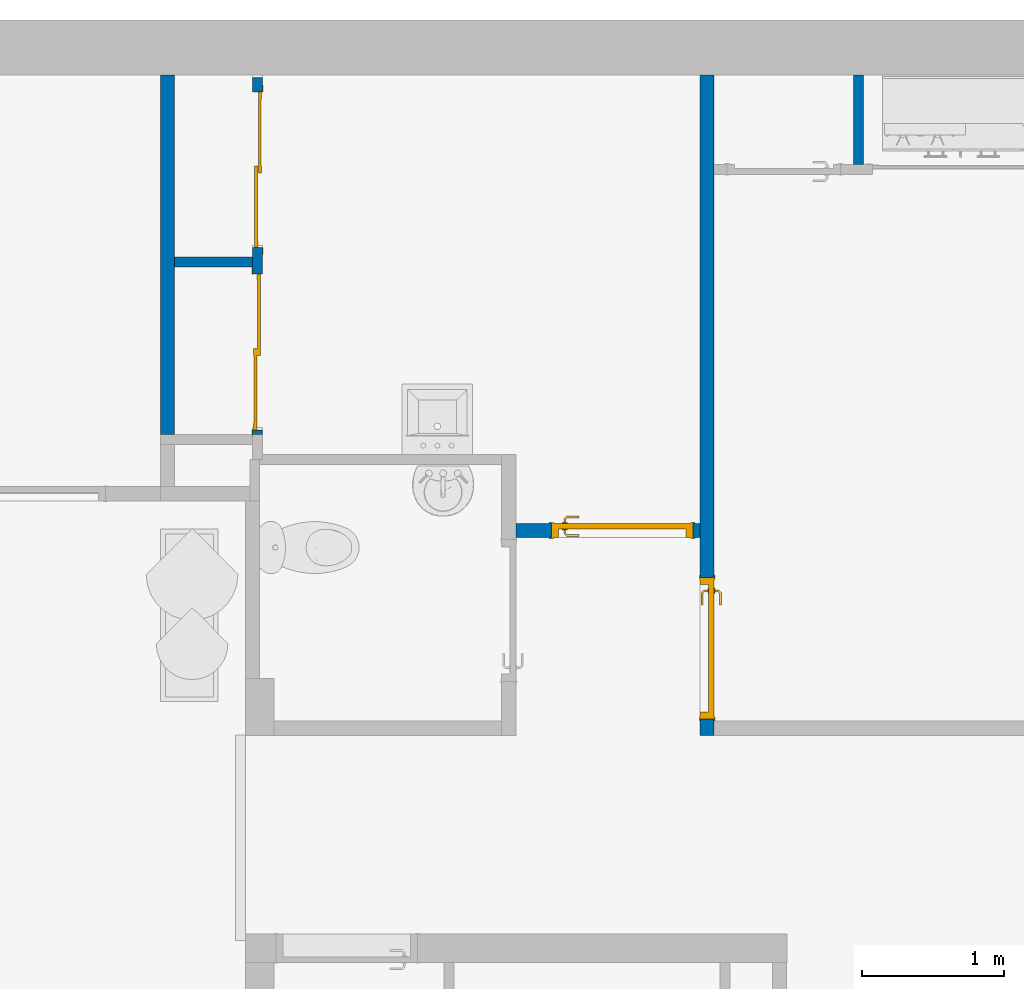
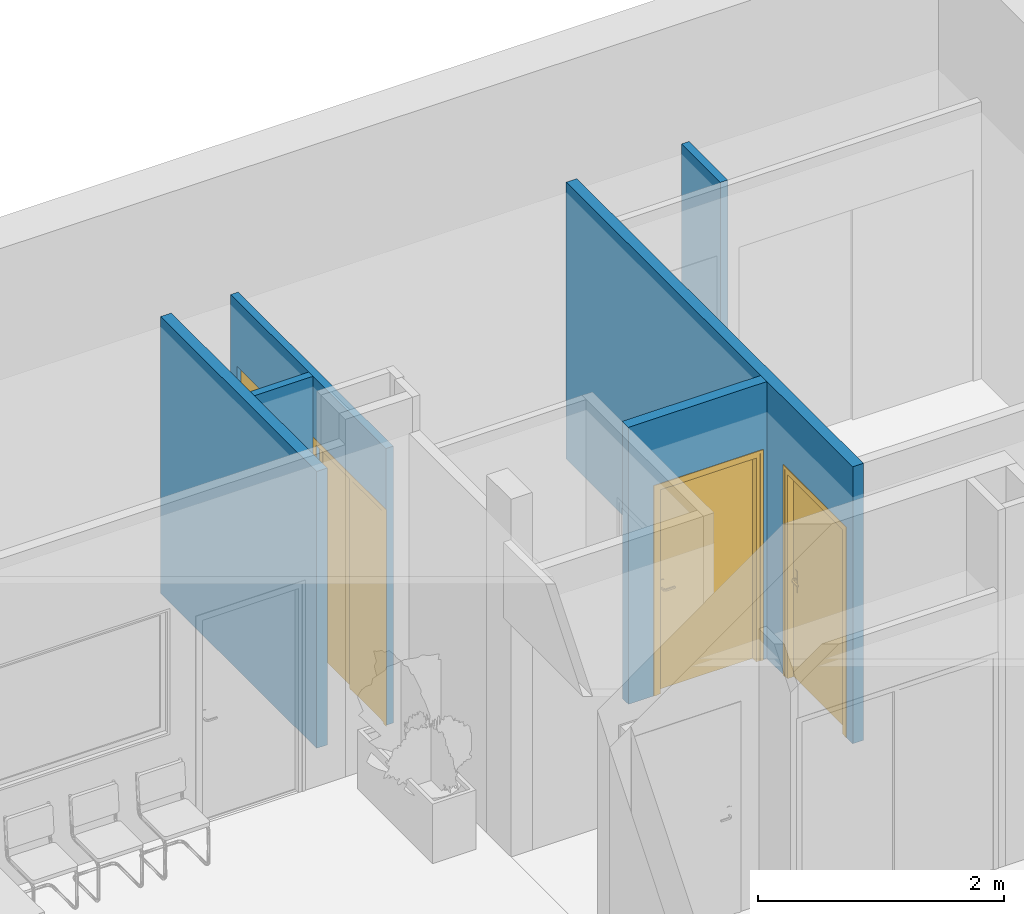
# One storey, part 17 of 32: 6 walls, 4 doors, 4 openings.
"""IFC2X3 building model written with IfcOpenShell, lengths in metres."""

from ifc_helpers import new_model, entity, si_unit, converted_unit, derived_unit, direction, frame, frame_2d, origin, origin_2d_with_axis, place, context, subcontext, project, spatial, polyline, circle_curve, parameter, trimmed, segment, composite_curve, rectangle, outline, extrude, faceted_brep, source, transform, mapped, material, material_list, layer, layer_set, layer_usage, type_object, type_shapes, element, fill, save


model = new_model("IFC2X3")

# Units and contexts
model_context = context("Model", 3, precision=1e-05, world=origin(), true_north=direction((6.12303176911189e-17, 1.0)))
plan_context = context("Plan", 3, precision=1e-05, world=origin(), true_north=direction((6.12303176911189e-17, 1.0)))
body_context = subcontext(model_context, "Body", "Model", "MODEL_VIEW")
ifc_project = project(units=[si_unit("LENGTHUNIT", "METRE"), si_unit("AREAUNIT", "SQUARE_METRE"), si_unit("VOLUMEUNIT", "CUBIC_METRE"), converted_unit("PLANEANGLEUNIT", "DEGREE", entity("IfcRatioMeasure", 0.0174532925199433), si_unit("PLANEANGLEUNIT", "RADIAN"), dimensions=[0, 0, 0, 0, 0, 0, 0]), si_unit("MASSUNIT", "GRAM", prefix="KILO"), derived_unit("MASSDENSITYUNIT", [(si_unit("MASSUNIT", "GRAM", prefix="KILO"), 1), (si_unit("LENGTHUNIT", "METRE"), -3)]), derived_unit("MOMENTOFINERTIAUNIT", [(si_unit("LENGTHUNIT", "METRE"), 4)]), si_unit("TIMEUNIT", "SECOND"), si_unit("FREQUENCYUNIT", "HERTZ"), si_unit("THERMODYNAMICTEMPERATUREUNIT", "DEGREE_CELSIUS"), derived_unit("THERMALTRANSMITTANCEUNIT", [(si_unit("MASSUNIT", "GRAM", prefix="KILO"), 1), (si_unit("THERMODYNAMICTEMPERATUREUNIT", "KELVIN"), -1), (si_unit("TIMEUNIT", "SECOND"), -3)]), derived_unit("VOLUMETRICFLOWRATEUNIT", [(si_unit("LENGTHUNIT", "METRE"), 3), (si_unit("TIMEUNIT", "SECOND"), -1)]), si_unit("ELECTRICCURRENTUNIT", "AMPERE"), si_unit("ELECTRICVOLTAGEUNIT", "VOLT"), si_unit("POWERUNIT", "WATT"), si_unit("FORCEUNIT", "NEWTON", prefix="KILO"), si_unit("ILLUMINANCEUNIT", "LUX"), si_unit("LUMINOUSFLUXUNIT", "LUMEN"), si_unit("LUMINOUSINTENSITYUNIT", "CANDELA"), derived_unit("USERDEFINED", [(si_unit("MASSUNIT", "GRAM", prefix="KILO"), -1), (si_unit("LENGTHUNIT", "METRE"), -2), (si_unit("TIMEUNIT", "SECOND"), 3), (si_unit("LUMINOUSFLUXUNIT", "LUMEN"), 1)]), derived_unit("LINEARVELOCITYUNIT", [(si_unit("LENGTHUNIT", "METRE"), 1), (si_unit("TIMEUNIT", "SECOND"), -1)]), si_unit("PRESSUREUNIT", "PASCAL"), derived_unit("USERDEFINED", [(si_unit("LENGTHUNIT", "METRE"), -2), (si_unit("MASSUNIT", "GRAM", prefix="KILO"), 1), (si_unit("TIMEUNIT", "SECOND"), -2)]), derived_unit("LINEARFORCEUNIT", [(si_unit("MASSUNIT", "GRAM", prefix="KILO"), 1), (si_unit("LENGTHUNIT", "METRE"), 1), (si_unit("TIMEUNIT", "SECOND"), -2), (si_unit("LENGTHUNIT", "METRE"), -1)]), derived_unit("PLANARFORCEUNIT", [(si_unit("MASSUNIT", "GRAM", prefix="KILO"), 1), (si_unit("LENGTHUNIT", "METRE"), 1), (si_unit("TIMEUNIT", "SECOND"), -2), (si_unit("LENGTHUNIT", "METRE"), -2)])], contexts=[model_context, plan_context])

# Site, building, storey
site_placement = place(None, origin())
site = spatial("IfcSite", under=ifc_project, at=site_placement, Name="Default", CompositionType="ELEMENT")
building_placement = place(site_placement, origin())
building = spatial("IfcBuilding", under=site, at=building_placement, CompositionType="ELEMENT")
storey_placement = place(building_placement, origin())
storey = spatial("IfcBuildingStorey", under=building, at=storey_placement, Name="0 Mairie RDC 0.00", CompositionType="ELEMENT", Elevation=-1.94916083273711e-14)

# Wall
ifc_material_1 = material(Name="Plâtre")
ifc_layer_1 = layer(ifc_material_1, 0.0125)
ifc_layer_2 = layer(ifc_material_1, 0.0125)
ifc_material_2 = material(Name="Maçonnerie - Isolant")
ifc_layer_3 = layer(ifc_material_2, 0.05)
ifc_layer_4 = layer(ifc_material_1, 0.0125)
ifc_layer_5 = layer(ifc_material_1, 0.0125)
ifc_layer_set_1 = layer_set([ifc_layer_1, ifc_layer_2, ifc_layer_3, ifc_layer_4, ifc_layer_5], Name="Mur de base:A cloison placostil 98 sèche")
ifc_layer_usage_1 = layer_usage(ifc_layer_set_1, "AXIS2", "NEGATIVE", 0.05)
wall_type_1 = type_object("IfcWallType", Name="Murs : Mur de base : A cloison placostil 98 sèche", PredefinedType="STANDARD", material=ifc_layer_set_1)
wall_1_placement = place(storey_placement, frame((-5.47749670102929, -4.5108057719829, 0.0), z_axis=(0.0, 0.0, 1.0), x_axis=(0.0, 1.0, 0.0)))
element("IfcWallStandardCase", 1, at=wall_1_placement, inside=storey, type_object=wall_type_1, material=ifc_layer_usage_1, Name="Murs : Mur de base : A cloison placostil 98 sèche", ObjectType="Mur de base:A cloison placostil 98 sèche", context=body_context, shape_type="SweptSolid", body=[
    extrude(rectangle(XDim=2.5380420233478, YDim=0.0999999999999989, at=frame_2d((1.2690210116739, 0.0), x_axis=(-1.0, 0.0))), origin(), (0.0, 0.0, 1.0), 2.75),
])

# Wall, opening, door
ifc_layer_usage_2 = layer_usage(ifc_layer_set_1, "AXIS2", "NEGATIVE", 0.05)
wall_2_placement = place(storey_placement, frame((-1.66775525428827, -6.63378247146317, 0.0), z_axis=(0.0, 0.0, 1.0), x_axis=(0.0, 1.0, 0.0)))
wall_2 = element("IfcWallStandardCase", 2, at=wall_2_placement, inside=storey, type_object=wall_type_1, material=ifc_layer_usage_2, Name="Murs : Mur de base : A cloison placostil 98 sèche", ObjectType="Mur de base:A cloison placostil 98 sèche", context=body_context, shape_type="SweptSolid", body=[
    extrude(rectangle(XDim=4.66101872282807, YDim=0.1, at=frame_2d((2.33050936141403, 0.0), x_axis=(-1.0, 0.0))), origin(), (0.0, 0.0, 1.0), 2.75),
])
opening_1_placement = place(wall_2_placement, frame((1.11499999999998, 0.05, 0.0)))
opening_1 = element("IfcOpeningElement", 3, at=opening_1_placement, cuts=wall_2, Name="Portes : Int. Simple : PP (0.89m x 2.04m):1", ObjectType="Opening", context=body_context, shape_type="SweptSolid", body=[
    extrude(rectangle(XDim=2.075, YDim=1.0, at=frame_2d((1.0375, 0.5), x_axis=(1.0, 0.0))), frame((0.0, 0.0, 0.0), z_axis=(0.0, -1.0, 0.0), x_axis=(0.0, 0.0, 1.0)), (0.0, 0.0, 1.0), 0.1),
])
ifc_material_3 = material(Name="Finition Peinture - Blanc satiné")
ifc_material_4 = material(Name="Bois - Cadre de porte")
ifc_material_list_1 = material_list([ifc_material_3, ifc_material_4])
ifc_material_5 = material(Name="Bois - Panneau de porte")
ifc_material_list_2 = material_list([ifc_material_5, ifc_material_4, ifc_material_3])
door_style_1 = type_object("IfcDoorStyle", Name="Portes : Int. Simple : PP (0.89m x 2.04m)", ConstructionType="NOTDEFINED", OperationType="NOTDEFINED", ParameterTakesPrecedence=False, Sizeable=False, material=ifc_material_list_2)
shared_shape_1 = source(origin(), body_context, "Body", "SolidModel", [
    extrude(outline(composite_curve([segment(polyline([(-0.104999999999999, -0.02), (0.104999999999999, -0.0199999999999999)]), True, "CONTINUOUS"), segment(trimmed(circle_curve(frame_2d((0.0703589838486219, 0.0), x_axis=(0.0, 1.0)), 0.0399999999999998), [parameter(240.000000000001)], [parameter(300.0)], True, "PARAMETER"), True, "CONTINUOUS"), segment(polyline([(0.104999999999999, 0.0199999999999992), (-0.105, 0.0200000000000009)]), True, "CONTINUOUS"), segment(trimmed(circle_curve(frame_2d((-0.0703589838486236, 0.0), x_axis=(0.0, 1.0)), 0.0399999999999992), [parameter(59.9999999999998)], [parameter(120.0)], True, "PARAMETER"), True, "CONTINUOUS")], self_intersect=False)), frame((0.975000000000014, 0.0, 0.975000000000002), z_axis=(0.0, -1.0, 0.0), x_axis=(0.0, 0.0, 1.0)), (0.0, 0.0, 1.0), 0.005),
    extrude(outline(composite_curve([segment(polyline([(-0.105, -0.02), (0.105, -0.02)]), True, "CONTINUOUS"), segment(trimmed(circle_curve(frame_2d((0.0703589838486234, 0.0), x_axis=(0.0, -1.0)), 0.0399999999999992), [parameter(59.9999999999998)], [parameter(120.0)], True, "PARAMETER"), True, "CONTINUOUS"), segment(polyline([(0.104999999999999, 0.0200000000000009), (-0.105, 0.0199999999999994)]), True, "CONTINUOUS"), segment(trimmed(circle_curve(frame_2d((-0.0703589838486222, 0.0), x_axis=(0.0, -1.0)), 0.0399999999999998), [parameter(240.0)], [parameter(300.0)], True, "PARAMETER"), True, "CONTINUOUS")], self_intersect=False)), frame((0.975000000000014, 0.0449999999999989, 0.975000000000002), z_axis=(0.0, -1.0, 0.0), x_axis=(0.0, 0.0, -1.0)), (0.0, 0.0, 1.0), 0.00500000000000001),
    extrude(rectangle(XDim=0.93, YDim=0.04, at=origin_2d_with_axis()), frame((0.570000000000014, 0.02, 0.0), z_axis=(0.0, 0.0, 1.0), x_axis=(-1.0, 0.0, 0.0)), (0.0, 0.0, 1.0), 2.04),
    extrude(outline(polyline([(0.484999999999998, -1.03750000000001), (0.514999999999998, -1.03750000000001), (0.514999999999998, 1.0525), (-0.514999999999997, 1.0525), (-0.514999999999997, -1.0375), (-0.484999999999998, -1.03750000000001), (-0.484999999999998, 1.02250000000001), (0.484999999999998, 1.02250000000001), (0.484999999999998, -1.03750000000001)])), frame((0.570000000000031, 0.105000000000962, 1.03750000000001), z_axis=(0.0, -1.0, 0.0), x_axis=(1.0, 0.0, 0.0)), (0.0, 0.0, 1.0), 0.00500000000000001),
    extrude(outline(polyline([(0.484999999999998, -1.03750000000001), (0.514999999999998, -1.03750000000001), (0.514999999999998, 1.0525), (-0.514999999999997, 1.0525), (-0.514999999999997, -1.0375), (-0.484999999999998, -1.03750000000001), (-0.484999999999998, 1.02250000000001), (0.484999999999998, 1.02250000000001), (0.484999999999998, -1.03750000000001)])), frame((0.570000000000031, 0.0, 1.03750000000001), z_axis=(0.0, -1.0, 0.0), x_axis=(1.0, 0.0, 0.0)), (0.0, 0.0, 1.0), 0.005),
    faceted_brep([(0.972974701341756, -0.0050000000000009, 1.00778044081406), (0.977025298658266, -0.00500000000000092, 1.00778044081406), (0.981000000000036, -0.00500000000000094, 1.00699999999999), (0.981000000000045, -0.00500000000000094, 0.992999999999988), (0.977025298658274, -0.00500000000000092, 0.99221955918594), (0.972974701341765, -0.0050000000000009, 0.992219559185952), (0.968999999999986, -0.00500000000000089, 0.993000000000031), (0.968999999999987, -0.00500000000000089, 1.007), (0.977025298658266, -0.0310045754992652, 1.00778044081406), (0.981000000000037, -0.0326509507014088, 1.007), (0.972974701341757, -0.0293267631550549, 1.00778044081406), (0.959298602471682, -0.0430028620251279, 1.00778044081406), (0.960976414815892, -0.0470534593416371, 1.00778044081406), (0.968999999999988, -0.0276803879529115, 1.007), (0.968999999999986, -0.0276803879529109, 0.993000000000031), (0.972974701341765, -0.0293267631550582, 0.992219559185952), (0.977025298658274, -0.0310045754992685, 0.99221955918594), (0.960976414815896, -0.0470534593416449, 0.99221955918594), (0.959298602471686, -0.0430028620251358, 0.992219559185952), (0.981000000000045, -0.0326509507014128, 0.992999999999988), (0.962622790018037, -0.051028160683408, 1.007), (0.957652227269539, -0.0390281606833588, 1.007), (0.957652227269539, -0.0390281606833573, 0.993000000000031), (0.96262279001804, -0.0510281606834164, 0.992999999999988), (0.874981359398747, -0.0510281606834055, 1.007), (0.874981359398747, -0.0470534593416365, 1.00778044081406), (0.874981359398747, -0.0430028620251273, 1.00778044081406), (0.874981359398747, -0.0390281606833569, 1.00699999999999), (0.874981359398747, -0.0390281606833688, 0.993000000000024), (0.874981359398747, -0.0430028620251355, 0.992219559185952), (0.874981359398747, -0.0470534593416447, 0.99221955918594), (0.874981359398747, -0.0510281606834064, 0.992999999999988), (0.917139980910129, -0.045028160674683, 1.0078786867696), (0.922692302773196, -0.051028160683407, 1.007), (0.916316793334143, -0.039028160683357, 1.007), (0.916316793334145, -0.0390281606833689, 0.993000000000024), (0.917139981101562, -0.0450281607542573, 0.992121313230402), (0.922692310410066, -0.0510281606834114, 0.992999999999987)], [[[0, 1, 2, 3, 4, 5, 6, 7]], [[2, 1, 8, 9]], [[1, 0, 10, 11, 12, 8]], [[0, 7, 13, 10]], [[14, 13, 7, 6]], [[5, 15, 14, 6]], [[5, 4, 16, 17, 18, 15]], [[3, 19, 16, 4]], [[9, 19, 3, 2]], [[9, 8, 12, 20]], [[10, 13, 21, 11]], [[22, 21, 13, 14]], [[14, 15, 18, 22]], [[16, 19, 23, 17]], [[20, 23, 19, 9]], [[24, 25, 26, 27, 28, 29, 30, 31]], [[32, 25, 33]], [[33, 25, 24]], [[33, 20, 12]], [[11, 34, 32]], [[34, 11, 21]], [[27, 26, 34]], [[32, 26, 25]], [[32, 34, 26]], [[32, 33, 12]], [[11, 32, 12]], [[21, 22, 35, 28, 27, 34]], [[36, 29, 35]], [[30, 36, 37]], [[18, 35, 22]], [[29, 28, 35]], [[30, 37, 31]], [[37, 17, 23]], [[36, 17, 37]], [[36, 18, 17]], [[36, 35, 18]], [[29, 36, 30]], [[23, 20, 33, 24, 31, 37]]]),
    faceted_brep([(0.972974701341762, 0.0449999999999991, 0.992219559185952), (0.977025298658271, 0.0449999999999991, 0.99221955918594), (0.981000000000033, 0.044999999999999, 0.992999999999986), (0.981000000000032, 0.044999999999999, 1.007), (0.977025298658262, 0.0449999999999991, 1.00778044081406), (0.972974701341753, 0.0449999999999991, 1.00778044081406), (0.968999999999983, 0.0449999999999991, 1.007), (0.968999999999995, 0.0449999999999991, 0.993000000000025), (0.968999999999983, 0.067485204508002, 1.007), (0.968999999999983, 0.0674852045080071, 0.993000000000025), (0.972974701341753, 0.0691315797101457, 1.00778044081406), (0.977025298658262, 0.070809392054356, 1.00778044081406), (0.960838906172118, 0.0869957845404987, 1.00778044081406), (0.959161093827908, 0.0829451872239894, 1.00778044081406), (0.981000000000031, 0.0724557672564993, 1.007), (0.981000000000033, 0.0724557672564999, 0.992999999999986), (0.977025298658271, 0.0708093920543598, 0.99221955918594), (0.972974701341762, 0.0691315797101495, 0.992219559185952), (0.959161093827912, 0.0829451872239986, 0.992219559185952), (0.960838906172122, 0.0869957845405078, 0.99221955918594), (0.957514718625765, 0.0789704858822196, 1.007), (0.957514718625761, 0.0789704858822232, 0.993000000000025), (0.962485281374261, 0.0909704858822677, 1.007), (0.962485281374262, 0.0909704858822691, 0.992999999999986), (0.874954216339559, 0.0829451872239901, 1.00778044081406), (0.874954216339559, 0.0869957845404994, 1.00778044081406), (0.874954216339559, 0.0909704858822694, 1.007), (0.874954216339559, 0.0909704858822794, 0.992999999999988), (0.874954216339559, 0.086995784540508, 0.99221955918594), (0.874954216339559, 0.0829451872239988, 0.992219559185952), (0.874954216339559, 0.0789704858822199, 0.993000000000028), (0.874954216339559, 0.0789704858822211, 1.007), (0.916234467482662, 0.0789704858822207, 1.007), (0.916234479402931, 0.0789704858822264, 0.993000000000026), (0.917057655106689, 0.0849704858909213, 1.0078786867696), (0.922554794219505, 0.0909704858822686, 1.007), (0.922554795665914, 0.0909704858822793, 0.992999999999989), (0.917057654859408, 0.0849704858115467, 0.992121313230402)], [[[0, 1, 2, 3, 4, 5, 6, 7]], [[8, 9, 7, 6]], [[5, 10, 8, 6]], [[5, 4, 11, 12, 13, 10]], [[3, 14, 11, 4]], [[14, 3, 2, 15]], [[2, 1, 16, 15]], [[1, 0, 17, 18, 19, 16]], [[0, 7, 9, 17]], [[20, 21, 9, 8]], [[8, 10, 13, 20]], [[14, 22, 12, 11]], [[23, 22, 14, 15]], [[15, 16, 19, 23]], [[17, 9, 21, 18]], [[24, 25, 26, 27, 28, 29, 30, 31]], [[21, 20, 32, 31, 30, 33]], [[34, 24, 32]], [[25, 34, 35]], [[13, 32, 20]], [[24, 31, 32]], [[25, 35, 26]], [[35, 12, 22]], [[34, 12, 35]], [[34, 13, 12]], [[34, 32, 13]], [[24, 34, 25]], [[22, 23, 36, 27, 26, 35]], [[37, 28, 36]], [[36, 28, 27]], [[36, 23, 19]], [[18, 33, 37]], [[33, 18, 21]], [[30, 29, 33]], [[37, 29, 28]], [[37, 33, 29]], [[37, 36, 19]], [[18, 37, 19]]]),
    faceted_brep([(1.07000000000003, 0.0, 0.0), (1.03500000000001, 0.0, 0.0), (1.03500000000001, 0.040000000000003, 0.0), (1.02000000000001, 0.040000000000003, 0.0), (1.02000000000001, 0.100000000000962, 0.0), (1.07000000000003, 0.100000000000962, 0.0), (1.07000000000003, 0.100000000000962, 2.07500000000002), (1.07000000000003, 0.0, 2.07500000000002), (1.02000000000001, 0.100000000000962, 2.025), (0.120000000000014, 0.100000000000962, 2.025), (0.120000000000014, 0.100000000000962, 0.0), (0.0699999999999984, 0.100000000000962, 0.0), (0.0699999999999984, 0.100000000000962, 2.07500000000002), (1.02000000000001, 0.040000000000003, 2.025), (1.03500000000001, 0.040000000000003, 2.04), (0.105000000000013, 0.040000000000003, 2.04), (0.105000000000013, 0.040000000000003, 0.0), (0.120000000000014, 0.040000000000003, 0.0), (0.120000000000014, 0.040000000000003, 2.025), (1.03500000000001, 0.0, 2.04), (0.0699999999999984, 0.0, 2.07500000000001), (0.0699999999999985, 0.0, 0.0), (0.105000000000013, 0.0, 0.0), (0.105000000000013, 0.0, 2.04)], [[[0, 1, 2, 3, 4, 5]], [[5, 6, 7, 0]], [[4, 8, 9, 10, 11, 12, 6, 5]], [[3, 13, 8, 4]], [[2, 14, 15, 16, 17, 18, 13, 3]], [[1, 19, 14, 2]], [[0, 7, 20, 21, 22, 23, 19, 1]], [[12, 11, 21, 20]], [[21, 11, 10, 17, 16, 22]], [[18, 17, 10, 9]], [[23, 22, 16, 15]], [[6, 12, 20, 7]], [[13, 18, 9, 8]], [[19, 23, 15, 14]]]),
])
type_shapes(door_style_1, [shared_shape_1])
door_1_placement = place(opening_1_placement, frame((-1.07000000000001, -0.1, 0.0)))
door_1 = element("IfcDoor", 4, at=door_1_placement, inside=storey, type_object=door_style_1, material=ifc_material_list_1, Name="Portes : Int. Simple : PP (0.89m x 2.04m)", ObjectType="Int. Simple:PP (0.89m x 2.04m)", OverallHeight=2.075, OverallWidth=1.0, context=body_context, shape_type="MappedRepresentation", body=[
    mapped(shared_shape_1, transform((0.0, 0.0, 0.0), scale=1.0)),
])
fill(opening_1, door_1)

ifc_layer_usage_3 = layer_usage(ifc_layer_set_1, "AXIS2", "POSITIVE", -0.05)
wall_3_placement = place(storey_placement, frame((-3.0189176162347, -5.18765336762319, 0.0)))
wall_3 = element("IfcWallStandardCase", 5, at=wall_3_placement, inside=storey, type_object=wall_type_1, material=ifc_layer_usage_3, Name="Murs : Mur de base : A cloison placostil 98 sèche", ObjectType="Mur de base:A cloison placostil 98 sèche", context=body_context, shape_type="SweptSolid", body=[
    extrude(rectangle(XDim=1.30116236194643, YDim=0.0999999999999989, at=frame_2d((0.650581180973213, 0.0), x_axis=(-1.0, 0.0))), origin(), (0.0, 0.0, 1.0), 2.75),
])
opening_2_placement = place(wall_3_placement, frame((0.251162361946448, -0.05, 0.0)))
opening_2 = element("IfcOpeningElement", 6, at=opening_2_placement, cuts=wall_3, Name="Portes : Int. Simple : PP (0.89m x 2.04m):1", ObjectType="Opening", context=body_context, shape_type="SweptSolid", body=[
    extrude(rectangle(XDim=2.075, YDim=1.0, at=frame_2d((1.0375, 0.5), x_axis=(1.0, 0.0))), frame((0.0, 0.0, 0.0), z_axis=(0.0, 1.0, 0.0), x_axis=(0.0, 0.0, 1.0)), (0.0, 0.0, 1.0), 0.1),
])
ifc_material_list_3 = material_list([ifc_material_3, ifc_material_4])
door_2_placement = place(opening_2_placement, frame((1.07000000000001, 0.0999999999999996, 0.0), z_axis=(0.0, 0.0, 1.0), x_axis=(-1.0, 0.0, 0.0)))
door_2 = element("IfcDoor", 7, at=door_2_placement, inside=storey, type_object=door_style_1, material=ifc_material_list_3, Name="Portes : Int. Simple : PP (0.89m x 2.04m)", ObjectType="Int. Simple:PP (0.89m x 2.04m)", OverallHeight=2.075, OverallWidth=1.0, context=body_context, shape_type="MappedRepresentation", body=[
    mapped(shared_shape_1, transform((0.0, 0.0, 0.0), scale=1.0)),
])
fill(opening_2, door_2)

# Wall, openings, doors
ifc_layer_6 = layer(ifc_material_1, 0.01)
ifc_layer_7 = layer(ifc_material_2, 0.05)
ifc_layer_8 = layer(ifc_material_1, 0.01)
ifc_layer_set_2 = layer_set([ifc_layer_6, ifc_layer_7, ifc_layer_8], Name="Mur de base:A cloison placostil 72 sèche")
ifc_layer_usage_4 = layer_usage(ifc_layer_set_2, "AXIS2", "NEGATIVE", 0.035)
wall_type_2 = type_object("IfcWallType", Name="Murs : Mur de base : A cloison placostil 72 sèche", PredefinedType="STANDARD", material=ifc_layer_set_2)
wall_4_placement = place(storey_placement, frame((-4.84249670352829, -4.51080577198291, 0.0), z_axis=(0.0, 0.0, 1.0), x_axis=(0.0, 1.0, 0.0)))
wall_4 = element("IfcWallStandardCase", 8, at=wall_4_placement, inside=storey, type_object=wall_type_2, material=ifc_layer_usage_4, Name="Murs : Mur de base : A cloison placostil 72 sèche", ObjectType="Mur de base:A cloison placostil 72 sèche", context=body_context, shape_type="SweptSolid", body=[
    extrude(rectangle(XDim=2.523, YDim=0.0699999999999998, at=frame_2d((1.2615, -2.70616862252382e-16), x_axis=(-1.0, 0.0))), origin(), (0.0, 0.0, 1.0), 2.75),
])
opening_3_placement = place(wall_4_placement, frame((0.0332508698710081, -0.035, 0.0)))
opening_3 = element("IfcOpeningElement", 9, at=opening_3_placement, cuts=wall_4, Name="Portes : Placard coulissante - 2 panneaux : Placard coulissante - 2 panneaux 1.10:1", ObjectType="Opening", context=body_context, shape_type="SweptSolid", body=[
    extrude(rectangle(XDim=2.09999999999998, YDim=1.1, at=frame_2d((1.04999999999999, 0.55), x_axis=(1.0, 0.0))), frame((0.0, 0.0, 0.0), z_axis=(0.0, 1.0, 0.0), x_axis=(0.0, 0.0, 1.0)), (0.0, 0.0, 1.0), 0.07),
])
opening_4_placement = place(wall_4_placement, frame((2.421, 0.035, 0.0)))
opening_4 = element("IfcOpeningElement", 10, at=opening_4_placement, cuts=wall_4, Name="Portes : Placard coulissante - 2 panneaux : Placard coulissante - 2 panneaux 1.10:1", ObjectType="Opening", context=body_context, shape_type="SweptSolid", body=[
    extrude(rectangle(XDim=2.09999999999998, YDim=1.1, at=frame_2d((1.04999999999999, 0.55), x_axis=(1.0, 0.0))), frame((0.0, 0.0, 0.0), z_axis=(0.0, -1.0, 0.0), x_axis=(0.0, 0.0, 1.0)), (0.0, 0.0, 1.0), 0.07),
])
ifc_material_6 = material(Name="Placard - Profil")
ifc_material_7 = material(Name="Placard - Encadrement")
ifc_material_8 = material(Name="Placard - Porte")
ifc_material_list_4 = material_list([ifc_material_6, ifc_material_6, ifc_material_6, ifc_material_6, ifc_material_7, ifc_material_8, ifc_material_8])
ifc_material_list_5 = material_list([ifc_material_6, ifc_material_6, ifc_material_6, ifc_material_6, ifc_material_7, ifc_material_8, ifc_material_8])
door_style_2 = type_object("IfcDoorStyle", Name="Portes : Placard coulissante - 2 panneaux : Placard coulissante - 2 panneaux 1.10", ConstructionType="NOTDEFINED", OperationType="SLIDING_TO_RIGHT", ParameterTakesPrecedence=False, Sizeable=False, material=ifc_material_list_5)
shared_shape_2 = source(origin(), body_context, "Body", "SweptSolid", [
    extrude(outline(composite_curve([segment(polyline([(-0.0250000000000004, -0.00100000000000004), (0.0249999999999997, -0.00100000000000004)]), True, "CONTINUOUS"), segment(polyline([(0.0249999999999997, -0.00100000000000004), (0.0249999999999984, 0.00100000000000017)]), True, "CONTINUOUS"), segment(trimmed(circle_curve(frame_2d((0.0, -0.212860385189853), x_axis=(-1.0, 0.0)), 0.215316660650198), [parameter(263.332459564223)], [parameter(276.667540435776)], True, "PARAMETER"), True, "CONTINUOUS"), segment(polyline([(-0.0250000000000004, 0.00100000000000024), (-0.0250000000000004, -0.00100000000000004)]), True, "CONTINUOUS")], self_intersect=False)), frame((1.075, 0.00900000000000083, 0.0), z_axis=(0.0, 0.0, 1.0), x_axis=(-1.0, 0.0, 0.0)), (0.0, 0.0, 1.0), 2.1),
    extrude(outline(composite_curve([segment(polyline([(-0.0250000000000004, -0.00100000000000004), (0.0249999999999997, -0.00100000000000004)]), True, "CONTINUOUS"), segment(polyline([(0.0249999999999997, -0.00100000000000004), (0.0249999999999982, 0.00100000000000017)]), True, "CONTINUOUS"), segment(trimmed(circle_curve(frame_2d((0.0, -0.212860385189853), x_axis=(-1.0, 0.0)), 0.215316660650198), [parameter(263.332459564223)], [parameter(276.667540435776)], True, "PARAMETER"), True, "CONTINUOUS"), segment(polyline([(-0.0250000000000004, 0.00100000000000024), (-0.0250000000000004, -0.00100000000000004)]), True, "CONTINUOUS")], self_intersect=False)), frame((0.549999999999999, 0.00900000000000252, 0.0), z_axis=(0.0, 0.0, 1.0), x_axis=(-1.0, 0.0, 0.0)), (0.0, 0.0, 1.0), 2.1),
    extrude(outline(composite_curve([segment(polyline([(-0.0250000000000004, -0.00100000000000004), (0.0249999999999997, -0.00100000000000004)]), True, "CONTINUOUS"), segment(polyline([(0.0249999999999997, -0.00100000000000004), (0.0249999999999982, 0.00100000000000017)]), True, "CONTINUOUS"), segment(trimmed(circle_curve(frame_2d((0.0, -0.212860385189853), x_axis=(-1.0, 0.0)), 0.215316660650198), [parameter(263.332459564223)], [parameter(276.667540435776)], True, "PARAMETER"), True, "CONTINUOUS"), segment(polyline([(-0.0250000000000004, 0.00100000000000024), (-0.0250000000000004, -0.00100000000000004)]), True, "CONTINUOUS")], self_intersect=False)), frame((0.549999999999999, 0.0340000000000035, 0.0), z_axis=(0.0, 0.0, 1.0), x_axis=(-1.0, 0.0, 0.0)), (0.0, 0.0, 1.0), 2.1),
    extrude(outline(composite_curve([segment(polyline([(-0.0250000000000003, -0.00100000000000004), (0.0249999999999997, -0.00100000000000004)]), True, "CONTINUOUS"), segment(polyline([(0.0249999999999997, -0.00100000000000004), (0.0249999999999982, 0.00100000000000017)]), True, "CONTINUOUS"), segment(trimmed(circle_curve(frame_2d((0.0, -0.212860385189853), x_axis=(-1.0, 0.0)), 0.215316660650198), [parameter(263.332459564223)], [parameter(276.667540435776)], True, "PARAMETER"), True, "CONTINUOUS"), segment(polyline([(-0.0250000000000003, 0.00100000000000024), (-0.0250000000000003, -0.00100000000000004)]), True, "CONTINUOUS")], self_intersect=False)), frame((0.0249999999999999, 0.0340000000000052, 0.0), z_axis=(0.0, 0.0, 1.0), x_axis=(-1.0, 0.0, 0.0)), (0.0, 0.0, 1.0), 2.1),
    extrude(outline(polyline([(-1.06149999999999, -0.598), (1.08649999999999, -0.598), (1.08649999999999, 0.598), (-1.06149999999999, 0.598), (-1.06149999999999, 0.548), (1.03649999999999, 0.548), (1.03649999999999, -0.548), (-1.06149999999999, -0.548), (-1.06149999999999, -0.598)])), frame((0.55, -0.00300000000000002, 1.06149999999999), z_axis=(0.0, 1.0, 0.0), x_axis=(0.0, 0.0, 1.0)), (0.0, 0.0, 1.0), 0.00300000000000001),
    extrude(rectangle(XDim=0.020000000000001, YDim=0.575000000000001, at=origin_2d_with_axis()), frame((0.8125, 0.0200000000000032, 0.0), z_axis=(0.0, 0.0, 1.0), x_axis=(0.0, 1.0, 0.0)), (0.0, 0.0, 1.0), 2.1),
    extrude(rectangle(XDim=0.02, YDim=0.574999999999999, at=origin_2d_with_axis()), frame((0.2875, 0.0450000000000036, 0.0), z_axis=(0.0, 0.0, 1.0), x_axis=(0.0, 1.0, 0.0)), (0.0, 0.0, 1.0), 2.1),
])
type_shapes(door_style_2, [shared_shape_2])
door_3_placement = place(opening_4_placement, frame((-1.1, -0.0700000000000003, 0.0)))
door_3 = element("IfcDoor", 11, at=door_3_placement, inside=storey, type_object=door_style_2, material=ifc_material_list_4, Name="Portes : Placard coulissante - 2 panneaux : Placard coulissante - 2 panneaux 1.10", ObjectType="Placard coulissante - 2 panneaux:Placard coulissante - 2 panneaux 1.10", OverallHeight=2.09999999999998, OverallWidth=1.1, context=body_context, shape_type="MappedRepresentation", body=[
    mapped(shared_shape_2, transform((0.0, 0.0, 0.0), scale=1.0)),
])
fill(opening_4, door_3)
ifc_material_list_6 = material_list([ifc_material_6, ifc_material_7, ifc_material_8])
door_4_placement = place(opening_3_placement, frame((1.1, 0.0699999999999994, 0.0), z_axis=(0.0, 0.0, 1.0), x_axis=(-1.0, 0.0, 0.0)))
door_4 = element("IfcDoor", 12, at=door_4_placement, inside=storey, type_object=door_style_2, material=ifc_material_list_6, Name="Portes : Placard coulissante - 2 panneaux : Placard coulissante - 2 panneaux 1.10", ObjectType="Placard coulissante - 2 panneaux:Placard coulissante - 2 panneaux 1.10", OverallHeight=2.09999999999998, OverallWidth=1.1, context=body_context, shape_type="MappedRepresentation", body=[
    mapped(shared_shape_2, transform((0.0, 0.0, 0.0), scale=1.0)),
])
fill(opening_3, door_4)

# Walls
ifc_layer_usage_5 = layer_usage(ifc_layer_set_2, "AXIS2", "NEGATIVE", 0.035)
wall_5_placement = place(storey_placement, frame((-5.42749670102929, -3.29274907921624, 0.0)))
element("IfcWallStandardCase", 13, at=wall_5_placement, inside=storey, type_object=wall_type_2, material=ifc_layer_usage_5, Name="Murs : Mur de base : A cloison placostil 72 sèche", ObjectType="Mur de base:A cloison placostil 72 sèche", context=body_context, shape_type="SweptSolid", body=[
    extrude(rectangle(XDim=0.549999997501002, YDim=0.0700000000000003, at=frame_2d((0.274999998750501, 0.0), x_axis=(-1.0, 0.0))), origin(), (0.0, 0.0, 1.0), 2.75),
])
ifc_layer_usage_6 = layer_usage(ifc_layer_set_2, "AXIS2", "NEGATIVE", 0.035)
wall_6_placement = place(storey_placement, frame((-0.59901758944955, -2.60276374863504, 0.0), z_axis=(0.0, 0.0, 1.0), x_axis=(0.0, 1.0, 0.0)))
element("IfcWallStandardCase", 14, at=wall_6_placement, inside=storey, type_object=wall_type_2, material=ifc_layer_usage_6, Name="Murs : Mur de base : A cloison placostil 72 sèche", ObjectType="Mur de base:A cloison placostil 72 sèche", context=body_context, shape_type="SweptSolid", body=[
    extrude(rectangle(XDim=0.630707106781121, YDim=0.0700000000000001, at=frame_2d((0.315353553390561, 0.0), x_axis=(-1.0, 0.0))), origin(), (0.0, 0.0, 1.0), 2.75),
])

save(model, "model.ifc")
